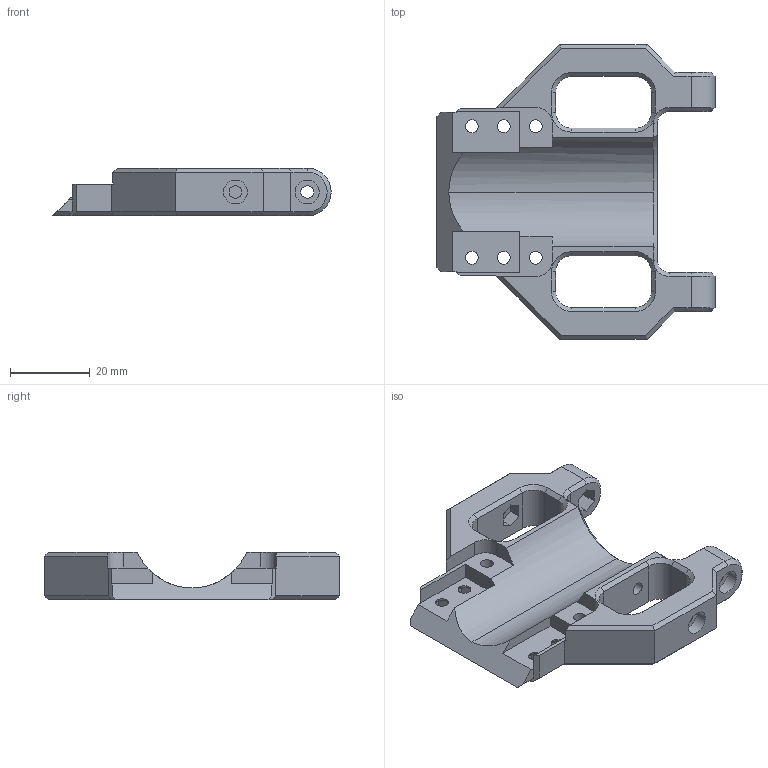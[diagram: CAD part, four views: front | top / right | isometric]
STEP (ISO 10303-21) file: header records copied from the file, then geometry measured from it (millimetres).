
FILE_DESCRIPTION(/* description */ (''),/* implementation_level */ '2;1');
FILE_NAME(/* name */ '3-12-2 Bottom wishbone.step',/* time_stamp */ '2025-05-10T22:04:17+02:00',/* author */ (''),/* organization */ (''),/* preprocessor_version */ 'ST-DEVELOPER v20.1',/* originating_system */ 'Autodesk Translation Framework v14.4.0.0',/* authorisation */ '');
FILE_SCHEMA (('AUTOMOTIVE_DESIGN { 1 0 10303 214 3 1 1 }'));
Length unit declared in the file: millimetre
Products named in the file (1): 3-12-2 Bottom wishbone
Bounding box: 69.8 x 73.98 x 12 mm (x, y, z)
Volume: 20833.2 mm3; surface area: 11536.5 mm2
Topology: 1 solids, 1 shells, 240 faces, 635 edges, 405 vertices
Faces by surface type: plane 184, cylinder 32, cone 24
Full cylindrical faces by diameter (mm): 3.2 x12, 6 x4
Entity records: 7389 total; most frequent: CARTESIAN_POINT 1367, ORIENTED_EDGE 1270, DIRECTION 1209, EDGE_CURVE 635, LINE 463, VECTOR 463, VERTEX_POINT 405, AXIS2_PLACEMENT_3D 373
